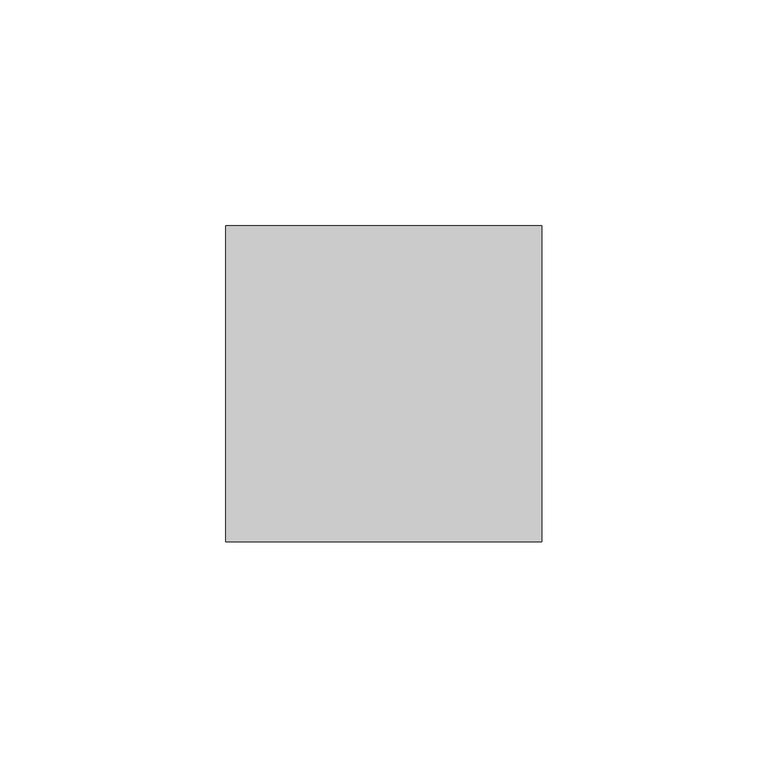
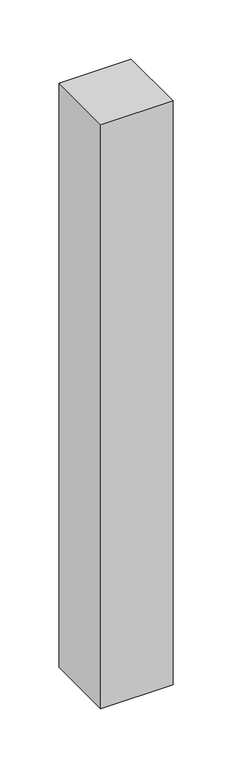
"""IFC4 building model written with IfcOpenShell, lengths in millimetres: member geometry, 長方形マリオン : 70*70."""

from ifc_helpers import new_model, si_unit, frame, origin, place, context, project, spatial, polyline, outline, extrude, source, transform, mapped, element, save


def member_8fee23aa(model_context):
    return source(origin(), model_context, "Body", "SweptSolid", [
        extrude(outline(polyline([(0.0, 35.0), (0.0, -35.0), (-70.0, -35.0), (-70.0, 35.0), (0.0, 35.0)])), frame((0.0, 0.0, -600.0), z_axis=(0.0, 0.0, 1.0), x_axis=(1.0, 0.0, 0.0)), (0.0, 0.0, 1.0), 600.0),
    ])


if __name__ == "__main__":
    model = new_model("IFC4")
    model_context = context("Model", 3, world=origin())
    ifc_project = project(units=[si_unit("LENGTHUNIT", "METRE", prefix="MILLI")], contexts=[model_context])
    site = spatial("IfcSite", under=ifc_project)
    building = spatial("IfcBuilding", under=site)
    placement = place(None, origin())
    member_shape = member_8fee23aa(model_context)
    element("IfcMember", 1, ObjectType="長方形マリオン : 70*70", at=placement, inside=building, context=model_context, shape_type="MappedRepresentation", body=[
        mapped(member_shape, transform((0.0, 0.0, 0.0), x_axis=(1.0, 0.0, 0.0), y_axis=(0.0, 1.0, 0.0), z_axis=(0.0, 0.0, 1.0))),
    ])
    save(model, "model.ifc")
